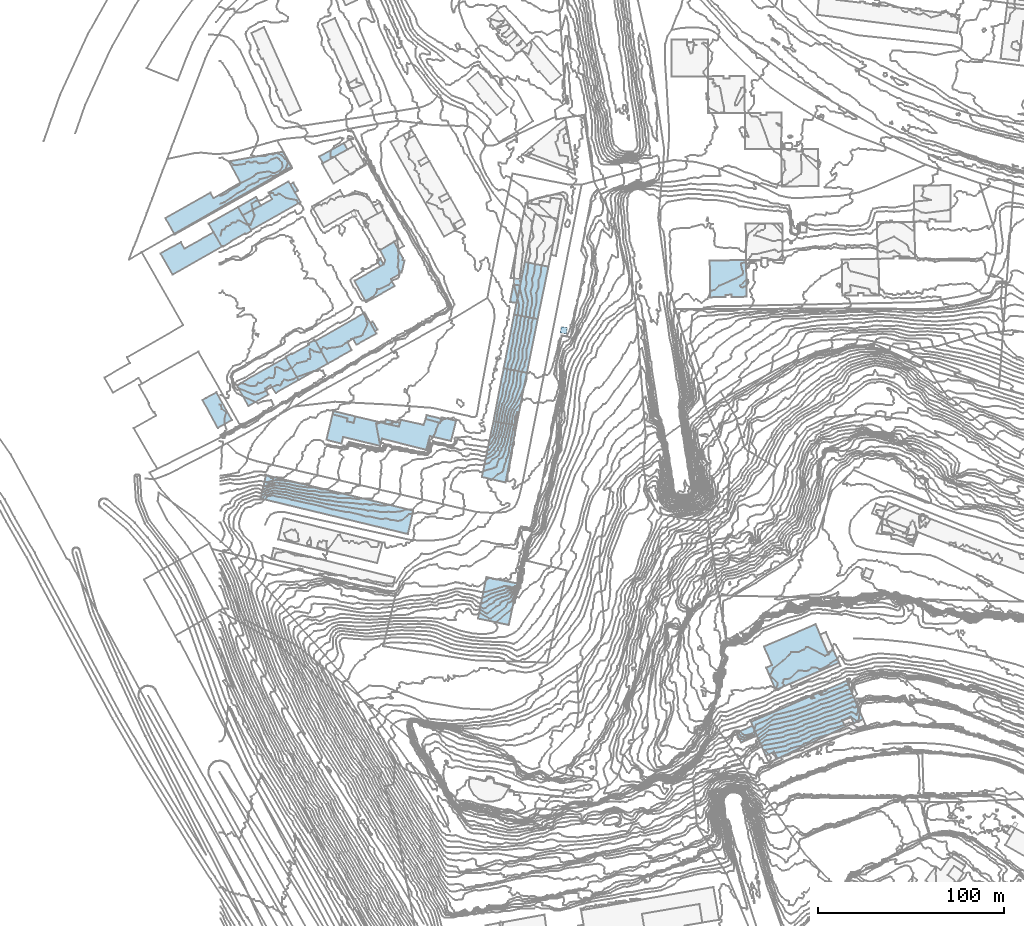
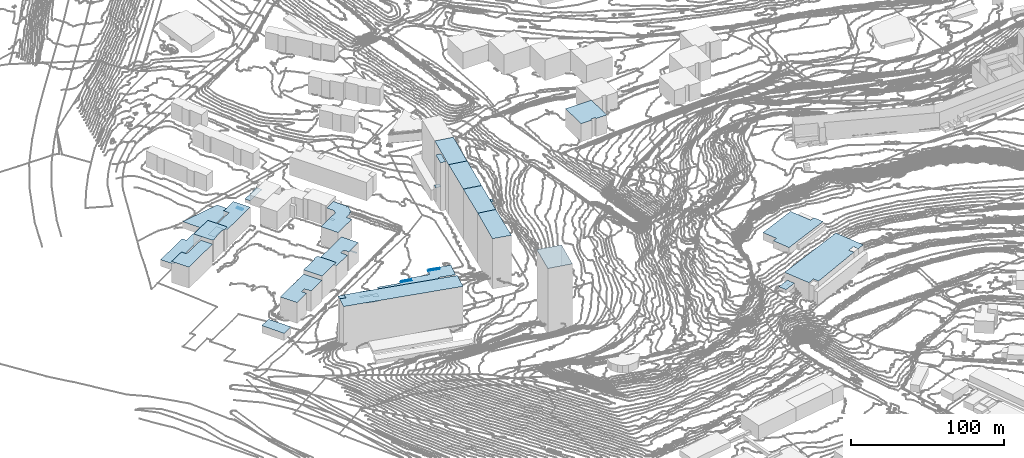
# Not in any storey, part 72 of 419: 32 roofs.
"""IFC2X3 model written with IfcOpenShell, lengths in metres."""

from ifc_helpers import new_model, si_unit, frame, origin_with_axes, place, context, subcontext, project, faceted_brep, element, save


model = new_model("IFC2X3")

# Units and contexts
model_context = context("Model", 3, precision=1e-05, world=origin_with_axes())
body_context = subcontext(model_context, "Body", "Model", "MODEL_VIEW")
ifc_project = project(units=[si_unit("AREAUNIT", "SQUARE_METRE"), si_unit("LENGTHUNIT", "METRE")], contexts=[model_context])

# Roofs
roof_1_placement = place(None, frame((-32.2079795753, 483.2976909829, 7.1649999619), z_axis=(0.0, 0.0, 1.0), x_axis=(1.0, 0.0, 0.0)))
element("IfcRoof", 1, at=roof_1_placement, Name="Toiture 0", ShapeType="NOTDEFINED", context=body_context, shape_type="Brep", body=[
    faceted_brep([(6.6000000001, -11.4000000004, 16.8350000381), (33.0, 3.6999999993, 16.8350000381), (28.6000000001, 11.2999999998, 16.8350000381), (12.9, 2.5999999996, 16.8350000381), (11.0, 6.0, 16.8350000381), (0.0, 0.0, 16.8350000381)], [[[0, 1, 2]], [[3, 4, 5]], [[0, 2, 3]], [[3, 5, 0]]]),
])
roof_2_placement = place(None, frame((151.8920204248, 421.5976909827, 14.3413999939), z_axis=(0.0, 0.0, 1.0), x_axis=(1.0, 0.0, 0.0)))
element("IfcRoof", 2, at=roof_2_placement, Name="Toiture 0", ShapeType="NOTDEFINED", context=body_context, shape_type="Brep", body=[
    faceted_brep([(5.6, 28.7999999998, 40.2586000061), (0.0, 0.0, 40.2586000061), (12.3999999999, -2.4000000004, 40.2586000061), (18.2, 26.3999999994, 40.2586000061)], [[[0, 1, 2]], [[2, 3, 0]]]),
])
roof_3_placement = place(None, frame((157.0920204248, 466.4976909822, 15.0005000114), z_axis=(0.0, 0.0, 1.0), x_axis=(1.0, 0.0, 0.0)))
element("IfcRoof", 3, at=roof_3_placement, Name="Toiture 0", ShapeType="NOTDEFINED", context=body_context, shape_type="Brep", body=[
    faceted_brep([(0.0, 0.0, 11.4994999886), (3.7, -0.5, 11.4994999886), (4.2, 2.6000000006, 11.4994999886), (0.7, 3.2000000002, 11.4994999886)], [[[0, 1, 2]], [[2, 3, 0]]]),
])
roof_4_placement = place(None, frame((37.4920204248, 520.3976909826, 9.6730000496), z_axis=(0.0, 0.0, 1.0), x_axis=(1.0, 0.0, 0.0)))
element("IfcRoof", 4, at=roof_4_placement, Name="Toiture 0", ShapeType="NOTDEFINED", context=body_context, shape_type="Brep", body=[
    faceted_brep([(0.0, 0.0, 9.8269999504), (2.5, -4.4000000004, 9.8269999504), (4.1, -3.5, 9.8269999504), (1.6, 0.9000000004, 9.8269999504)], [[[0, 1, 2]], [[2, 3, 0]]]),
])
roof_5_placement = place(None, frame((80.4920204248, 446.0976909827, 9.7695999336), z_axis=(0.0, 0.0, 1.0), x_axis=(1.0, 0.0, 0.0)))
element("IfcRoof", 5, at=roof_5_placement, Name="Toiture 0", ShapeType="NOTDEFINED", context=body_context, shape_type="Brep", body=[
    faceted_brep([(0.0, 0.0, 5.4304000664), (2.4, -4.4000000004, 5.4304000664), (3.7, -3.6000000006, 5.4304000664), (1.2, 0.7000000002, 5.4304000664)], [[[0, 1, 2]], [[2, 3, 0]]]),
])
roof_6_placement = place(None, frame((52.9920204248, 535.1976909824, 9.8683998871), z_axis=(0.0, 0.0, 1.0), x_axis=(1.0, 0.0, 0.0)))
element("IfcRoof", 6, at=roof_6_placement, Name="Toiture 0", ShapeType="NOTDEFINED", context=body_context, shape_type="Brep", body=[
    faceted_brep([(0.0, 0.0, 2.5316001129), (2.0, -3.5, 2.5316001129), (15.2, 3.7999999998, 2.5316001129), (13.2, 7.2999999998, 2.5316001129)], [[[0, 1, 2]], [[2, 3, 0]]]),
])
roof_7_placement = place(None, frame((109.9920204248, 394.3976909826, 13.4939999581), z_axis=(0.0, 0.0, 1.0), x_axis=(1.0, 0.0, 0.0)))
element("IfcRoof", 7, at=roof_7_placement, Name="Toiture 0", ShapeType="NOTDEFINED", context=body_context, shape_type="Brep", body=[
    faceted_brep([(7.7999999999, -2.0, 6.5060000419), (8.4, 0.0999999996, 6.5060000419), (0.6, 2.0999999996, 6.5060000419), (0.0, 0.0, 6.5060000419)], [[[0, 1, 2]], [[2, 3, 0]]]),
])
roof_8_placement = place(None, frame((-9.6079795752, 404.6976909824, 6.7739999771), z_axis=(0.0, 0.0, 1.0), x_axis=(1.0, 0.0, 0.0)))
element("IfcRoof", 8, at=roof_8_placement, Name="Toiture 0", ShapeType="NOTDEFINED", context=body_context, shape_type="Brep", body=[
    faceted_brep([(7.3999999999, 4.1000000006, 5.8260000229), (1.8999999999, 1.1000000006, 5.8260000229), (0.0, 0.0, 5.8260000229), (8.2, -15.0, 5.8260000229), (15.7999999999, -10.7000000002, 5.8260000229)], [[[0, 1, 2]], [[2, 3, 4]], [[4, 0, 2]]]),
])
roof_9_placement = place(None, frame((71.7920204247, 468.5976909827, 9.7140002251), z_axis=(0.0, 0.0, 1.0), x_axis=(1.0, 0.0, 0.0)))
element("IfcRoof", 9, at=roof_9_placement, Name="Toiture 0", ShapeType="NOTDEFINED", context=body_context, shape_type="Brep", body=[
    faceted_brep([(15.8, 8.7999999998, 14.4859997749), (0.0, 0.0, 14.4859997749), (6.3, -11.5, 14.4859997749), (21.6000000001, -2.9000000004, 14.4859997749), (19.6000000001, 0.8999999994, 14.4859997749), (23.9, 3.3999999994, 14.4859997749), (24.1000000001, 4.7000000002, 14.4859997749), (25.3, 4.2999999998, 14.4859997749), (26.9, 10.7999999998, 14.4859997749), (25.9, 11.0999999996, 14.4859997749), (26.1000000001, 12.2000000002, 14.4859997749), (21.3, 20.8999999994, 14.4859997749), (13.8, 16.5, 14.4859997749), (16.6000000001, 11.2000000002, 14.4859997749)], [[[0, 1, 2]], [[2, 3, 4]], [[4, 5, 6]], [[6, 7, 8]], [[9, 10, 11]], [[11, 12, 13]], [[0, 2, 4]], [[4, 6, 8]], [[9, 11, 13]], [[13, 0, 4]], [[4, 8, 9]], [[9, 13, 4]]]),
])
roof_10_placement = place(None, frame((50.9920204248, 436.3976909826, 9.217900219), z_axis=(0.0, 0.0, 1.0), x_axis=(1.0, 0.0, 0.0)))
element("IfcRoof", 10, at=roof_10_placement, Name="Toiture 0", ShapeType="NOTDEFINED", context=body_context, shape_type="Brep", body=[
    faceted_brep([(31.9, 5.2999999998, 15.282099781), (26.4, 15.0999999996, 15.282099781), (0.0, 0.0, 15.282099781), (6.7, -12.0999999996, 15.282099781), (19.2999999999, -5.0, 15.282099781), (20.1, 1.0999999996, 15.282099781), (21.9, -2.0999999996, 15.282099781), (32.7, 3.9000000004, 15.282099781), (17.2, -0.5, 15.282099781)], [[[0, 1, 2]], [[2, 3, 4]], [[5, 6, 7]], [[7, 0, 2]], [[2, 4, 8]], [[5, 7, 2]], [[2, 8, 5]]]),
])
roof_11_placement = place(None, frame((-6.3079795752, 499.2976909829, 9.6026999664), z_axis=(0.0, 0.0, 1.0), x_axis=(1.0, 0.0, 0.0)))
element("IfcRoof", 11, at=roof_11_placement, Name="Toiture 0", ShapeType="NOTDEFINED", context=body_context, shape_type="Brep", body=[
    faceted_brep([(0.0, 0.0, 17.4973000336), (7.1, -12.3000000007, 17.4973000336), (7.6, -12.1000000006, 17.4973000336), (7.8, -12.5, 17.4973000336), (12.4, -9.3000000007, 17.4973000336), (19.5, -5.3000000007, 17.4973000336), (19.8, -5.8000000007, 17.4973000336), (22.7000000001, -4.1000000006, 17.4973000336), (22.8, -3.5, 17.4973000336), (15.8, 8.7999999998, 17.4973000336)], [[[0, 1, 2]], [[2, 3, 4]], [[5, 6, 7]], [[7, 8, 9]], [[9, 0, 2]], [[5, 7, 9]], [[9, 2, 4]], [[4, 5, 9]]]),
])
roof_12_placement = place(None, frame((88.1920204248, 391.9976909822, 12.8979999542), z_axis=(0.0, 0.0, 1.0), x_axis=(1.0, 0.0, 0.0)))
element("IfcRoof", 12, at=roof_12_placement, Name="Toiture 0", ShapeType="NOTDEFINED", context=body_context, shape_type="Brep", body=[
    faceted_brep([(7.5, -1.6999999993, 7.1020000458), (8.1, 0.4000000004, 7.1020000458), (0.5, 2.1000000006, 7.1020000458), (0.0, 0.0, 7.1020000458)], [[[0, 1, 2]], [[2, 3, 0]]]),
])
roof_13_placement = place(None, frame((60.0920204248, 396.8976909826, 12.1372999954), z_axis=(0.0, 0.0, 1.0), x_axis=(1.0, 0.0, 0.0)))
element("IfcRoof", 13, at=roof_13_placement, Name="Toiture 0", ShapeType="NOTDEFINED", context=body_context, shape_type="Brep", body=[
    faceted_brep([(0.4, 1.7999999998, 2.9627000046), (0.0, 0.0, 2.9627000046), (8.0, -2.0999999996, 2.9627000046), (7.7, -3.7000000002, 2.9627000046), (11.3, -4.5, 2.9627000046), (12.2, -1.0999999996, 2.9627000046)], [[[0, 1, 2]], [[2, 3, 4]], [[5, 0, 2]], [[2, 4, 5]]]),
])
roof_14_placement = place(None, frame((11.9920204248, 503.6976909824, 9.7199997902), z_axis=(0.0, 0.0, 1.0), x_axis=(1.0, 0.0, 0.0)))
element("IfcRoof", 14, at=roof_14_placement, Name="Toiture 0", ShapeType="NOTDEFINED", context=body_context, shape_type="Brep", body=[
    faceted_brep([(0.0, 0.0, 14.4800002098), (4.5, -7.8999999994, 14.4800002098), (31.0, 7.1000000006, 14.4800002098), (24.6, 18.2000000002, 14.4800002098), (13.9, 12.2000000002, 14.4800002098), (15.7999999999, 8.6000000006, 14.4800002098)], [[[0, 1, 2]], [[2, 3, 4]], [[5, 0, 2]], [[2, 4, 5]]]),
])
roof_15_placement = place(None, frame((8.7920204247, 412.5976909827, 7.6424999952), z_axis=(0.0, 0.0, 1.0), x_axis=(1.0, 0.0, 0.0)))
element("IfcRoof", 15, at=roof_15_placement, Name="Toiture 0", ShapeType="NOTDEFINED", context=body_context, shape_type="Brep", body=[
    faceted_brep([(20.9, -4.1000000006, 16.5575000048), (33.2000000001, 2.7999999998, 16.5575000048), (26.2000000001, 14.7999999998, 16.5575000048), (0.0, 0.0, 16.5575000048), (6.3, -11.1000000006, 16.5575000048), (17.0, -5.0, 16.5575000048), (15.1000000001, -1.7000000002, 16.5575000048), (18.1000000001, 0.0999999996, 16.5575000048)], [[[0, 1, 2]], [[2, 3, 4]], [[4, 5, 6]], [[7, 0, 2]], [[2, 4, 6]], [[6, 7, 2]]]),
])
roof_16_placement = place(None, frame((276.7920204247, 226.2976909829, 48.1744001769), z_axis=(0.0, 0.0, 1.0), x_axis=(1.0, 0.0, 0.0)))
element("IfcRoof", 16, at=roof_16_placement, Name="Toiture 0", ShapeType="NOTDEFINED", context=body_context, shape_type="Brep", body=[
    faceted_brep([(2.4, -5.3000000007, 3.3255998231), (10.9, -1.6000000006, 3.3255998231), (8.6000000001, 3.6999999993, 3.3255998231), (0.0, 0.0, 3.3255998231)], [[[0, 1, 2]], [[2, 3, 0]]]),
])
roof_17_placement = place(None, frame((155.2920204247, 457.1976909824, 14.2041998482), z_axis=(0.0, 0.0, 1.0), x_axis=(1.0, 0.0, 0.0)))
element("IfcRoof", 17, at=roof_17_placement, Name="Toiture 0", ShapeType="NOTDEFINED", context=body_context, shape_type="Brep", body=[
    faceted_brep([(0.0, 0.0, 38.4958001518), (3.6000000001, -0.5999999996, 38.4958001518), (5.5, 8.7999999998, 38.4958001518), (1.8, 9.2999999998, 38.4958001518)], [[[0, 1, 2]], [[2, 3, 0]]]),
])
roof_18_placement = place(None, frame((9.4920204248, 508.0976909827, 9.6026999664), z_axis=(0.0, 0.0, 1.0), x_axis=(1.0, 0.0, 0.0)))
element("IfcRoof", 18, at=roof_18_placement, Name="Toiture 0", ShapeType="NOTDEFINED", context=body_context, shape_type="Brep", body=[
    faceted_brep([(0.0, 0.0, 5.8973000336), (2.5, -4.4000000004, 5.8973000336), (12.2, 0.8999999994, 5.8973000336), (9.6, 5.5, 5.8973000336)], [[[0, 1, 2]], [[2, 3, 0]]]),
])
roof_19_placement = place(None, frame((34.9920204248, 427.3976909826, 8.6459999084), z_axis=(0.0, 0.0, 1.0), x_axis=(1.0, 0.0, 0.0)))
element("IfcRoof", 19, at=roof_19_placement, Name="Toiture 0", ShapeType="NOTDEFINED", context=body_context, shape_type="Brep", body=[
    faceted_brep([(7.0, -12.0, 18.8540000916), (22.7, -3.0999999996, 18.8540000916), (16.0, 9.0, 18.8540000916), (15.6, 8.7999999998, 18.8540000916), (15.2999999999, 9.2999999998, 18.8540000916), (12.1, 7.5, 18.8540000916), (3.2999999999, 1.9000000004, 18.8540000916), (3.1, 2.2000000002, 18.8540000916), (0.2999999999, 0.5999999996, 18.8540000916), (0.5, 0.2999999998, 18.8540000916), (0.0, 0.0, 18.8540000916), (12.4, 7.0, 18.8540000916)], [[[0, 1, 2]], [[3, 4, 5]], [[6, 7, 8]], [[9, 10, 0]], [[0, 2, 3]], [[3, 5, 11]], [[6, 8, 9]], [[9, 0, 3]], [[11, 6, 9]], [[9, 3, 11]]]),
])
roof_20_placement = place(None, frame((-29.5079795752, 502.2976909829, 7.7300000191), z_axis=(0.0, 0.0, 1.0), x_axis=(1.0, 0.0, 0.0)))
element("IfcRoof", 20, at=roof_20_placement, Name="Toiture 0", ShapeType="NOTDEFINED", context=body_context, shape_type="Brep", body=[
    faceted_brep([(0.0, 0.0, 5.1699999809), (5.0, -8.9000000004, 5.1699999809), (68.0, 26.5999999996, 5.1699999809), (63.0, 35.5, 5.1699999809), (34.1, 30.2999999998, 5.1699999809), (25.7999999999, 10.5999999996, 5.1699999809), (24.1, 13.5999999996, 5.1699999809), (40.2999999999, 19.0, 5.1699999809)], [[[0, 1, 2]], [[2, 3, 4]], [[5, 6, 0]], [[2, 4, 7]], [[5, 0, 2]], [[2, 7, 5]]]),
])
roof_21_placement = place(None, frame((83.8920204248, 479.6976909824, 9.9632000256), z_axis=(0.0, 0.0, 1.0), x_axis=(1.0, 0.0, 0.0)))
element("IfcRoof", 21, at=roof_21_placement, Name="Toiture 0", ShapeType="NOTDEFINED", context=body_context, shape_type="Brep", body=[
    faceted_brep([(1.7999999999, -3.2999999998, 9.2367999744), (3.7, -2.2999999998, 9.2367999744), (1.8999999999, 1.0, 9.2367999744), (0.0, 0.0, 9.2367999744)], [[[0, 1, 2]], [[2, 3, 0]]]),
])
roof_22_placement = place(None, frame((23.5920204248, 360.6976909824, 13.1479997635), z_axis=(0.0, 0.0, 1.0), x_axis=(1.0, 0.0, 0.0)))
element("IfcRoof", 22, at=roof_22_placement, Name="Toiture 0", ShapeType="NOTDEFINED", context=body_context, shape_type="Brep", body=[
    faceted_brep([(4.1, -1.0999999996, 35.5520002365), (4.9, 2.6000000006, 35.5520002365), (0.8, 3.7000000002, 35.5520002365), (0.0, 0.0, 35.5520002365)], [[[0, 1, 2]], [[2, 3, 0]]]),
])
roof_23_placement = place(None, frame((157.4920204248, 450.3976909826, 14.4179998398), z_axis=(0.0, 0.0, 1.0), x_axis=(1.0, 0.0, 0.0)))
element("IfcRoof", 23, at=roof_23_placement, Name="Toiture 0", ShapeType="NOTDEFINED", context=body_context, shape_type="Brep", body=[
    faceted_brep([(5.7999999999, 28.2000000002, 39.9820001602), (0.0, 0.0, 39.9820001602), (12.6, -2.4000000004, 39.9820001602), (18.4, 25.7000000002, 39.9820001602)], [[[0, 1, 2]], [[2, 3, 0]]]),
])
roof_24_placement = place(None, frame((291.4920204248, 272.4976909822, 55.600801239), z_axis=(0.0, 0.0, 1.0), x_axis=(1.0, 0.0, 0.0)))
element("IfcRoof", 24, at=roof_24_placement, Name="Toiture 0", ShapeType="NOTDEFINED", context=body_context, shape_type="Brep", body=[
    faceted_brep([(40.2999999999, -8.6999999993, 5.799198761), (37.2999999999, -1.8999999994, 5.799198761), (34.2, -3.1999999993, 5.799198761), (27.7, 11.9000000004, 5.799198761), (0.0, 0.0, 5.799198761), (4.2999999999, -10.0, 5.799198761), (1.2, -11.3999999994, 5.799198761), (6.2999999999, -23.2999999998, 5.799198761)], [[[0, 1, 2]], [[2, 3, 4]], [[5, 6, 7]], [[7, 0, 2]], [[2, 4, 5]], [[5, 7, 2]]]),
])
roof_25_placement = place(None, frame((138.0920204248, 287.3976909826, 24.9659996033), z_axis=(0.0, 0.0, 1.0), x_axis=(1.0, 0.0, 0.0)))
element("IfcRoof", 25, at=roof_25_placement, Name="Toiture 0", ShapeType="NOTDEFINED", context=body_context, shape_type="Brep", body=[
    faceted_brep([(16.5, -3.4000000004, 52.5340003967), (21.2, 18.7999999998, 52.5340003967), (4.5, 22.2000000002, 52.5340003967), (0.0, 0.0, 52.5340003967)], [[[0, 1, 2]], [[2, 3, 0]]]),
])
roof_26_placement = place(None, frame((262.3920204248, 479.4976909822, 30.2231999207), z_axis=(0.0, 0.0, 1.0), x_axis=(1.0, 0.0, 0.0)))
element("IfcRoof", 26, at=roof_26_placement, Name="Toiture 0", ShapeType="NOTDEFINED", context=body_context, shape_type="Brep", body=[
    faceted_brep([(19.7999999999, -19.5, 14.4768000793), (19.5, 0.1000000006, 14.4768000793), (0.0, 0.0, 14.4768000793), (0.2, -19.7999999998, 14.4768000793), (8.3999999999, -19.6999999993, 14.4768000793), (11.7, -18.3999999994, 14.4768000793), (11.7, -19.5999999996, 14.4768000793), (8.3999999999, -18.5, 14.4768000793)], [[[0, 1, 2]], [[2, 3, 4]], [[5, 6, 0]], [[2, 4, 7]], [[5, 0, 2]], [[2, 7, 5]]]),
])
roof_27_placement = place(None, frame((284.4920204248, 232.0976909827, 42.5580001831), z_axis=(0.0, 0.0, 1.0), x_axis=(1.0, 0.0, 0.0)))
element("IfcRoof", 27, at=roof_27_placement, Name="Toiture 0", ShapeType="NOTDEFINED", context=body_context, shape_type="Brep", body=[
    faceted_brep([(0.0, 0.0, 14.1419998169), (7.9, -18.2000000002, 14.1419998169), (12.5, -16.0, 14.1419998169), (14.2999999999, -19.7000000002, 14.1419998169), (50.7999999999, -2.6000000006, 14.1419998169), (53.5, 2.8999999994, 14.1419998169), (55.1, -0.7000000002, 14.1419998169), (60.2, 1.3999999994, 14.1419998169), (51.4, 22.0999999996, 14.1419998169), (48.9, 0.7999999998, 14.1419998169)], [[[0, 1, 2]], [[2, 3, 4]], [[5, 6, 7]], [[8, 0, 2]], [[2, 4, 9]], [[5, 7, 8]], [[8, 2, 9]], [[9, 5, 8]]]),
])
roof_28_placement = place(None, frame((146.3920204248, 393.1976909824, 14.3413999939), z_axis=(0.0, 0.0, 1.0), x_axis=(1.0, 0.0, 0.0)))
element("IfcRoof", 28, at=roof_28_placement, Name="Toiture 0", ShapeType="NOTDEFINED", context=body_context, shape_type="Brep", body=[
    faceted_brep([(5.5, 28.4000000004, 40.1586000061), (0.0, 0.0, 40.1586000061), (12.2999999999, -2.2000000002, 40.1586000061), (17.8999999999, 26.0, 40.1586000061)], [[[0, 1, 2]], [[2, 3, 0]]]),
])
roof_29_placement = place(None, frame((56.7920204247, 383.2976909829, 12.182500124), z_axis=(0.0, 0.0, 1.0), x_axis=(1.0, 0.0, 0.0)))
element("IfcRoof", 29, at=roof_29_placement, Name="Toiture 0", ShapeType="NOTDEFINED", context=body_context, shape_type="Brep", body=[
    faceted_brep([(61.0, 9.0999999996, 7.817499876), (53.2000000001, 11.0999999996, 7.817499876), (52.1000000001, 8.0, 7.817499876), (39.9, 10.6999999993, 7.817499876), (38.9, 7.0, 7.817499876), (15.5, 12.5, 7.817499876), (14.6000000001, 9.0999999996, 7.817499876), (11.0, 9.8999999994, 7.817499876), (11.3, 11.5, 7.817499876), (3.3, 13.5999999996, 7.817499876), (0.0, 0.0, 7.817499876), (8.1000000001, -2.1000000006, 7.817499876), (9.0, 1.5, 7.817499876), (28.8, -3.3000000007, 7.817499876), (29.8, 0.5999999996, 7.817499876), (53.5, -5.4000000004, 7.817499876), (55.5, 2.0, 7.817499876), (66.8, -0.7000000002, 7.817499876), (69.6000000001, 10.1999999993, 7.817499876), (61.8, 12.0, 7.817499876), (61.6000000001, 11.1999999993, 7.817499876)], [[[0, 1, 2]], [[2, 3, 4]], [[4, 5, 6]], [[7, 8, 9]], [[9, 10, 11]], [[12, 13, 14]], [[14, 15, 16]], [[16, 17, 18]], [[18, 19, 20]], [[7, 9, 11]], [[12, 14, 16]], [[18, 20, 0]], [[7, 11, 12]], [[12, 16, 18]], [[6, 7, 12]], [[12, 18, 0]], [[4, 6, 12]], [[12, 0, 2]], [[2, 4, 12]]]),
])
roof_30_placement = place(None, frame((182.0920204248, 440.6976909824, 19.4979999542), z_axis=(0.0, 0.0, 1.0), x_axis=(1.0, 0.0, 0.0)))
element("IfcRoof", 30, at=roof_30_placement, Name="Toiture 0", ShapeType="NOTDEFINED", context=body_context, shape_type="Brep", body=[
    faceted_brep([(3.4, -0.5, 2.0020000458), (3.9, 2.9000000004, 2.0020000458), (0.5, 3.4000000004, 2.0020000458), (0.0, 0.0, 2.0020000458)], [[[0, 1, 2]], [[2, 3, 0]]]),
])
roof_31_placement = place(None, frame((140.1920204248, 363.2976909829, 14.4428000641), z_axis=(0.0, 0.0, 1.0), x_axis=(1.0, 0.0, 0.0)))
element("IfcRoof", 31, at=roof_31_placement, Name="Toiture 0", ShapeType="NOTDEFINED", context=body_context, shape_type="Brep", body=[
    faceted_brep([(18.5, 27.6999999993, 40.0571999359), (6.2000000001, 29.8999999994, 40.0571999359), (0.0, 0.0, 40.0571999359), (12.7000000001, -2.9000000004, 40.0571999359)], [[[0, 1, 2]], [[2, 3, 0]]]),
])
roof_32_placement = place(None, frame((21.4920204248, 351.7976909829, 13.1490001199), z_axis=(0.0, 0.0, 1.0), x_axis=(1.0, 0.0, 0.0)))
element("IfcRoof", 32, at=roof_32_placement, Name="Toiture 0", ShapeType="NOTDEFINED", context=body_context, shape_type="Brep", body=[
    faceted_brep([(81.9, -6.5, 35.8509998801), (7.0, 11.5, 35.8509998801), (6.2, 7.7999999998, 35.8509998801), (2.1, 8.8999999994, 35.8509998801), (0.0, 0.0, 35.8509998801), (79.0, -19.1000000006, 35.8509998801)], [[[0, 1, 2]], [[2, 3, 4]], [[4, 5, 0]], [[0, 2, 4]]]),
])

save(model, "model.ifc")
